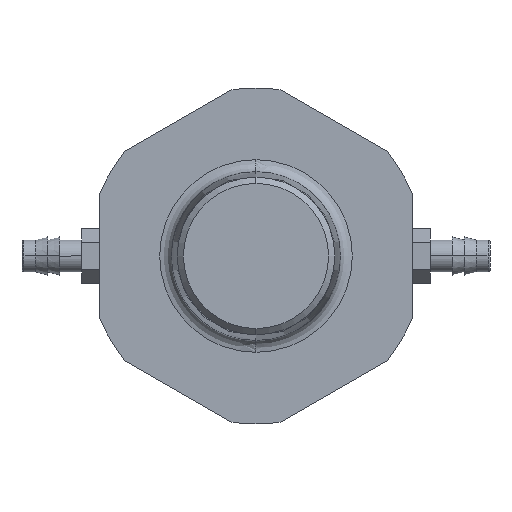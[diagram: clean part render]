
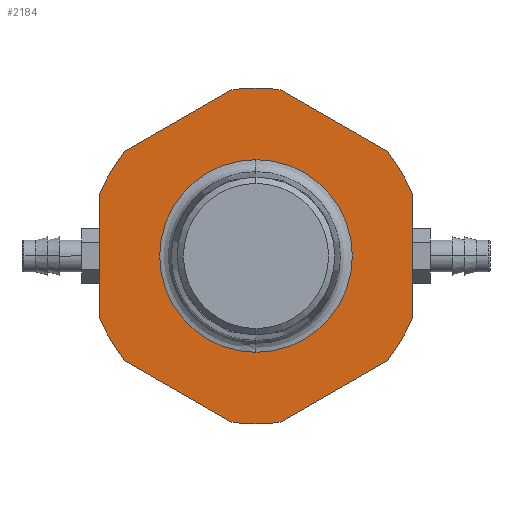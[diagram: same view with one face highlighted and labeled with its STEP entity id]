
A CAD part, left-side view. The second image highlights one B-rep face of the part: STEP entity #2184.
In plain terms, the highlighted planar face has unit normal (-1, 0, 0).
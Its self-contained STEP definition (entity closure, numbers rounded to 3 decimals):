
#1956=CARTESIAN_POINT('',(-2.875,0.0,0.501));
#1957=VERTEX_POINT('',#1956);
#1967=CARTESIAN_POINT('',(-2.875,0.,-0.501));
#1968=VERTEX_POINT('',#1967);
#1969=CARTESIAN_POINT('',(-2.875,0.0,0.0));
#1970=DIRECTION('',(-1.0,0.0,0.0));
#1971=DIRECTION('',(0.0,0.0,1.0));
#1972=AXIS2_PLACEMENT_3D('',#1969,#1970,#1971);
#1973=CIRCLE('',#1972,0.501);
#1974=EDGE_CURVE('',#1957,#1968,#1973,.T.);
#2065=CARTESIAN_POINT('',(-2.875,0.,0.0));
#2066=DIRECTION('',(-1.0,0.0,0.0));
#2067=DIRECTION('',(0.0,0.0,1.0));
#2068=AXIS2_PLACEMENT_3D('',#2065,#2066,#2067);
#2069=PLANE('',#2068);
#2070=CARTESIAN_POINT('',(-2.875,-0.125,-0.866));
#2071=VERTEX_POINT('',#2070);
#2072=CARTESIAN_POINT('',(-2.875,0.125,-0.866));
#2073=VERTEX_POINT('',#2072);
#2074=CARTESIAN_POINT('',(-2.875,0.,0.0));
#2075=DIRECTION('',(1.0,0.0,0.0));
#2076=DIRECTION('',(0.0,0.0,-1.0));
#2077=AXIS2_PLACEMENT_3D('',#2074,#2075,#2076);
#2078=CIRCLE('',#2077,0.875);
#2079=EDGE_CURVE('',#2071,#2073,#2078,.T.);
#2080=ORIENTED_EDGE('',*,*,#2079,.F.);
#2081=CARTESIAN_POINT('',(-2.875,-0.688,-0.541));
#2082=VERTEX_POINT('',#2081);
#2083=CARTESIAN_POINT('',(-2.875,-0.688,-0.541));
#2084=DIRECTION('',(0.0,0.866,-0.5));
#2085=VECTOR('',#2084,0.65);
#2086=LINE('',#2083,#2085);
#2087=EDGE_CURVE('',#2082,#2071,#2086,.T.);
#2088=ORIENTED_EDGE('',*,*,#2087,.F.);
#2089=CARTESIAN_POINT('',(-2.875,-0.813,-0.325));
#2090=VERTEX_POINT('',#2089);
#2091=CARTESIAN_POINT('',(-2.875,0.,0.0));
#2092=DIRECTION('',(1.0,0.0,0.0));
#2093=DIRECTION('',(0.0,-0.866,-0.5));
#2094=AXIS2_PLACEMENT_3D('',#2091,#2092,#2093);
#2095=CIRCLE('',#2094,0.875);
#2096=EDGE_CURVE('',#2090,#2082,#2095,.T.);
#2097=ORIENTED_EDGE('',*,*,#2096,.F.);
#2098=CARTESIAN_POINT('',(-2.875,-0.813,0.325));
#2099=VERTEX_POINT('',#2098);
#2100=CARTESIAN_POINT('',(-2.875,-0.813,0.325));
#2101=DIRECTION('',(0.0,0.0,-1.0));
#2102=VECTOR('',#2101,0.65);
#2103=LINE('',#2100,#2102);
#2104=EDGE_CURVE('',#2099,#2090,#2103,.T.);
#2105=ORIENTED_EDGE('',*,*,#2104,.F.);
#2106=CARTESIAN_POINT('',(-2.875,-0.688,0.541));
#2107=VERTEX_POINT('',#2106);
#2108=CARTESIAN_POINT('',(-2.875,0.0,0.0));
#2109=DIRECTION('',(1.0,0.0,0.0));
#2110=DIRECTION('',(0.0,-0.866,0.5));
#2111=AXIS2_PLACEMENT_3D('',#2108,#2109,#2110);
#2112=CIRCLE('',#2111,0.875);
#2113=EDGE_CURVE('',#2107,#2099,#2112,.T.);
#2114=ORIENTED_EDGE('',*,*,#2113,.F.);
#2115=CARTESIAN_POINT('',(-2.875,-0.125,0.866));
#2116=VERTEX_POINT('',#2115);
#2117=CARTESIAN_POINT('',(-2.875,-0.125,0.866));
#2118=DIRECTION('',(0.0,-0.866,-0.5));
#2119=VECTOR('',#2118,0.65);
#2120=LINE('',#2117,#2119);
#2121=EDGE_CURVE('',#2116,#2107,#2120,.T.);
#2122=ORIENTED_EDGE('',*,*,#2121,.F.);
#2123=CARTESIAN_POINT('',(-2.875,0.125,0.866));
#2124=VERTEX_POINT('',#2123);
#2125=CARTESIAN_POINT('',(-2.875,0.,0.0));
#2126=DIRECTION('',(1.0,0.0,0.0));
#2127=DIRECTION('',(0.0,0.0,1.0));
#2128=AXIS2_PLACEMENT_3D('',#2125,#2126,#2127);
#2129=CIRCLE('',#2128,0.875);
#2130=EDGE_CURVE('',#2124,#2116,#2129,.T.);
#2131=ORIENTED_EDGE('',*,*,#2130,.F.);
#2132=CARTESIAN_POINT('',(-2.875,0.687,0.541));
#2133=VERTEX_POINT('',#2132);
#2134=CARTESIAN_POINT('',(-2.875,0.687,0.541));
#2135=DIRECTION('',(0.0,-0.866,0.5));
#2136=VECTOR('',#2135,0.65);
#2137=LINE('',#2134,#2136);
#2138=EDGE_CURVE('',#2133,#2124,#2137,.T.);
#2139=ORIENTED_EDGE('',*,*,#2138,.F.);
#2140=CARTESIAN_POINT('',(-2.875,0.812,0.325));
#2141=VERTEX_POINT('',#2140);
#2142=CARTESIAN_POINT('',(-2.875,0.,0.0));
#2143=DIRECTION('',(1.0,0.0,0.0));
#2144=DIRECTION('',(0.0,0.866,0.5));
#2145=AXIS2_PLACEMENT_3D('',#2142,#2143,#2144);
#2146=CIRCLE('',#2145,0.875);
#2147=EDGE_CURVE('',#2141,#2133,#2146,.T.);
#2148=ORIENTED_EDGE('',*,*,#2147,.F.);
#2149=CARTESIAN_POINT('',(-2.875,0.812,-0.325));
#2150=VERTEX_POINT('',#2149);
#2151=CARTESIAN_POINT('',(-2.875,0.812,-0.325));
#2152=DIRECTION('',(0.0,0.0,1.0));
#2153=VECTOR('',#2152,0.65);
#2154=LINE('',#2151,#2153);
#2155=EDGE_CURVE('',#2150,#2141,#2154,.T.);
#2156=ORIENTED_EDGE('',*,*,#2155,.F.);
#2157=CARTESIAN_POINT('',(-2.875,0.687,-0.541));
#2158=VERTEX_POINT('',#2157);
#2159=CARTESIAN_POINT('',(-2.875,0.,0.0));
#2160=DIRECTION('',(1.0,0.0,0.0));
#2161=DIRECTION('',(0.0,0.866,-0.5));
#2162=AXIS2_PLACEMENT_3D('',#2159,#2160,#2161);
#2163=CIRCLE('',#2162,0.875);
#2164=EDGE_CURVE('',#2158,#2150,#2163,.T.);
#2165=ORIENTED_EDGE('',*,*,#2164,.F.);
#2166=CARTESIAN_POINT('',(-2.875,0.125,-0.866));
#2167=DIRECTION('',(0.0,0.866,0.5));
#2168=VECTOR('',#2167,0.65);
#2169=LINE('',#2166,#2168);
#2170=EDGE_CURVE('',#2073,#2158,#2169,.T.);
#2171=ORIENTED_EDGE('',*,*,#2170,.F.);
#2172=EDGE_LOOP('',(#2080,#2088,#2097,#2105,#2114,#2122,#2131,#2139,#2148,#2156,#2165,#2171));
#2173=FACE_OUTER_BOUND('',#2172,.T.);
#2174=ORIENTED_EDGE('',*,*,#1974,.F.);
#2175=CARTESIAN_POINT('',(-2.875,0.0,0.0));
#2176=DIRECTION('',(-1.0,0.0,0.0));
#2177=DIRECTION('',(0.0,0.0,1.0));
#2178=AXIS2_PLACEMENT_3D('',#2175,#2176,#2177);
#2179=CIRCLE('',#2178,0.501);
#2180=EDGE_CURVE('',#1968,#1957,#2179,.T.);
#2181=ORIENTED_EDGE('',*,*,#2180,.F.);
#2182=EDGE_LOOP('',(#2174,#2181));
#2183=FACE_BOUND('',#2182,.T.);
#2184=ADVANCED_FACE('',(#2173,#2183),#2069,.T.);
